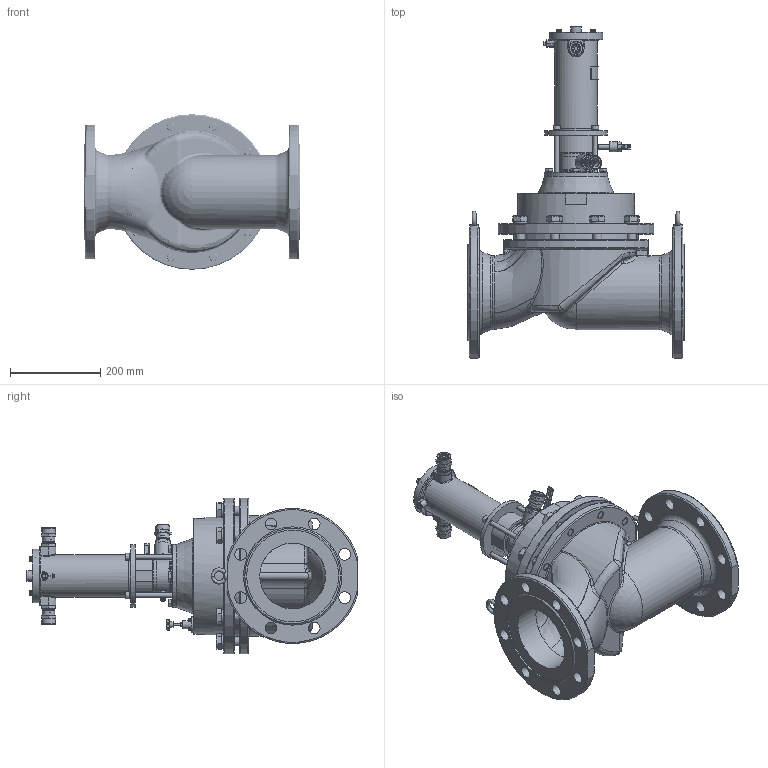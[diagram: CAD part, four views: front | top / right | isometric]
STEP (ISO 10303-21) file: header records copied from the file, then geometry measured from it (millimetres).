
FILE_DESCRIPTION(('STEP AP203'), '1');
FILE_NAME('ÑÅÍÑ-ÏÐ DN150PN25-ÄÏ1-ÑÂ.stp', '2018-10-09T08:05:09', ('Îðëîâ Å.Â.'), ('ÎÎÎ ÍÏÏ Ñåíñîð'), 'ASCON STEP Converter 1.3', 'Kompas 3D', '');
FILE_SCHEMA(('CONFIG_CONTROL_DESIGN','SUPPORT_RESOURCE_SCHEMA'));
Length unit declared in the file: millimetre
Products named in the file (1): 39
Bounding box: 480 x 736.5 x 345 mm (x, y, z)
Volume: 861987.7 mm3; surface area: 1757316.2 mm2
Topology: 52 solids, 53 shells, 3190 faces, 8184 edges, 5236 vertices
Faces by surface type: cylinder 1280, plane 1252, cone 281, bspline 170, extrusion 108, torus 96, sphere 3
Full cylindrical faces by diameter (mm): 2.459 x2, 3 x4, 3.242 x6, 3.3 x1, 3.5 x2, 3.8 x1, 4 x6, 4.134 x8, 4.2 x1, 4.5 x4, 4.917 x6, 5 x4, 5.2 x1, 5.3 x1, 6 x8, 6.5 x4, 6.647 x2, 7 x16, 7.6 x1, 8 x13, 8.376 x8, 8.5 x1, 9.5 x1, 9.6 x1, 10 x14, 11 x12, 12 x7, 12.2 x2, 13 x4, 14 x1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
Entity records: 152169 total; most frequent: CARTESIAN_POINT 75134, ORIENTED_EDGE 16206, DIRECTION 15890, EDGE_CURVE 8104, AXIS2_PLACEMENT_3D 6041, VERTEX_POINT 5235, VECTOR 3808, LINE 3700
